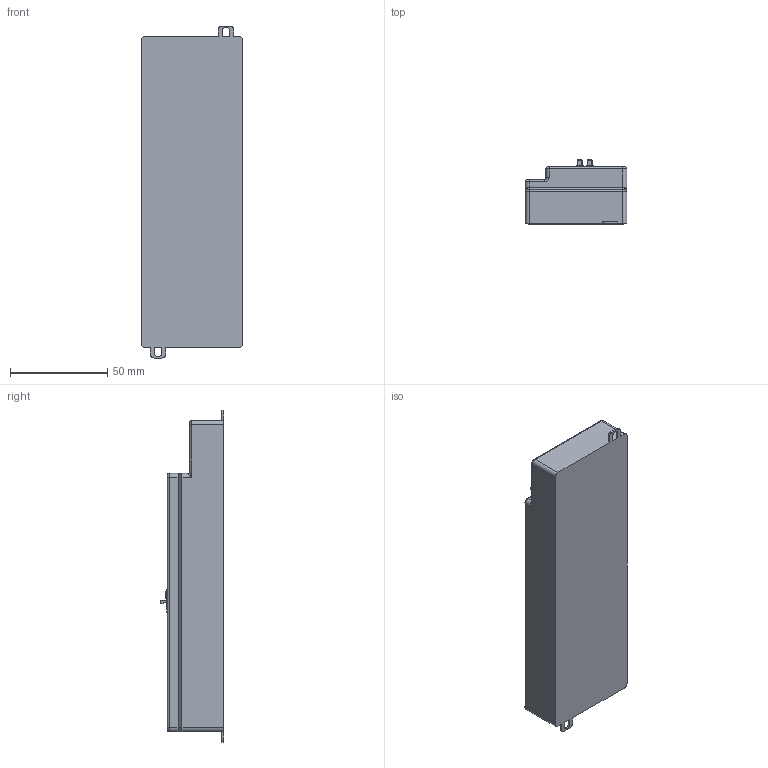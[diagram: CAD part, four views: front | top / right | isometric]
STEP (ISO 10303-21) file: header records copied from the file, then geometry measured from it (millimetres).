
FILE_DESCRIPTION(/* description */ (''),/* implementation_level */ '2;1');
FILE_NAME(/* name */ 'CL32.stp',/* time_stamp */ '2022-01-13T18:55:28+08:00',/* author */ (''),/* organization */ (''),/* preprocessor_version */ 'ST-DEVELOPER v16',/* originating_system */ 'SIEMENS PLM Software NX 10.0',/* authorisation */ '');
FILE_SCHEMA (('AP203_CONFIGURATION_CONTROLLED_3D_DESIGN_OF_MECHANICAL_PARTS_AND_ASSEMBLIES_MIM_LF { 1 0 10303 403 2 1 2}'));
Products named in the file (1): 73494C981A9Cmm29
Bounding box: 52.4 x 32.88 x 171.1 mm (x, y, z)
Volume: 137865.1 mm3; surface area: 86457.3 mm2
Topology: 32 solids, 34 shells, 5752 faces, 15414 edges, 9915 vertices
Faces by surface type: plane 4733, cylinder 671, bspline 256, torus 84, sphere 8
Entity records: 186573 total; most frequent: CARTESIAN_POINT 43138, ORIENTED_EDGE 30804, DIRECTION 27452, EDGE_CURVE 15402, LINE 13146, VECTOR 13146, VERTEX_POINT 9915, AXIS2_PLACEMENT_3D 7153
